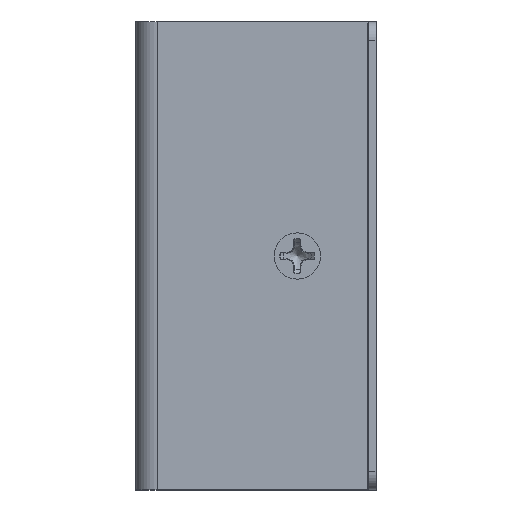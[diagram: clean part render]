
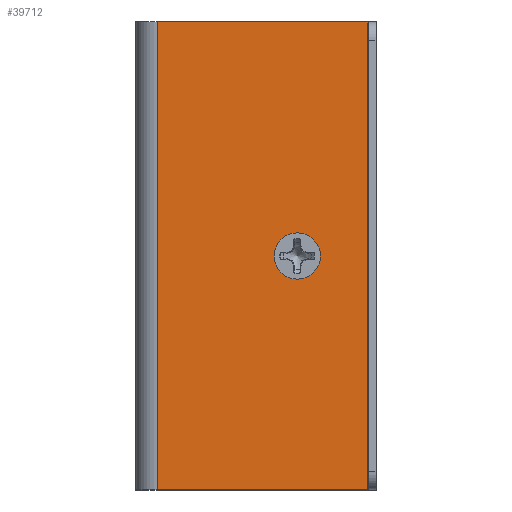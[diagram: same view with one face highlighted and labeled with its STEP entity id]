
A CAD part, left-side view. The second image highlights one B-rep face of the part: STEP entity #39712.
In plain terms, the highlighted planar face has unit normal (-1, 0, 0).
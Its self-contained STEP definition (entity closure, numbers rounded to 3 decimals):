
#308=FACE_BOUND('',#4363,.T.);
#525=PLANE('',#41809);
#2229=FACE_OUTER_BOUND('',#4362,.T.);
#4362=EDGE_LOOP('',(#27848,#27849,#27850,#27851));
#4363=EDGE_LOOP('',(#27852));
#6484=CIRCLE('',#41803,2.5);
#7733=LINE('',#60497,#12543);
#7734=LINE('',#60499,#12544);
#7735=LINE('',#60501,#12545);
#7736=LINE('',#60502,#12546);
#12543=VECTOR('',#45220,10.);
#12544=VECTOR('',#45221,10.);
#12545=VECTOR('',#45222,10.);
#12546=VECTOR('',#45223,1.852);
#17392=VERTEX_POINT('',#60464);
#17405=VERTEX_POINT('',#60495);
#17406=VERTEX_POINT('',#60496);
#17407=VERTEX_POINT('',#60498);
#17408=VERTEX_POINT('',#60500);
#21431=EDGE_CURVE('',#17392,#17392,#6484,.T.);
#21444=EDGE_CURVE('',#17405,#17406,#7733,.T.);
#21445=EDGE_CURVE('',#17407,#17406,#7734,.T.);
#21446=EDGE_CURVE('',#17407,#17408,#7735,.T.);
#21447=EDGE_CURVE('',#17405,#17408,#7736,.T.);
#27848=ORIENTED_EDGE('',*,*,#21444,.T.);
#27849=ORIENTED_EDGE('',*,*,#21445,.F.);
#27850=ORIENTED_EDGE('',*,*,#21446,.T.);
#27851=ORIENTED_EDGE('',*,*,#21447,.F.);
#27852=ORIENTED_EDGE('',*,*,#21431,.F.);
#39712=ADVANCED_FACE('',(#2229,#308),#525,.F.);
#41803=AXIS2_PLACEMENT_3D('',#60466,#45196,#45197);
#41809=AXIS2_PLACEMENT_3D('',#60494,#45218,#45219);
#45196=DIRECTION('center_axis',(-1.,0.,0.));
#45197=DIRECTION('ref_axis',(0.,0.,
1.));
#45218=DIRECTION('center_axis',(1.,0.,0.));
#45219=DIRECTION('ref_axis',(0.,1.,0.));
#45220=DIRECTION('',(0.,0.,1.));
#45221=DIRECTION('',(0.,-1.,0.));
#45222=DIRECTION('',(0.,0.,-1.));
#45223=DIRECTION('',(0.,1.,0.));
#60464=CARTESIAN_POINT('',(-74.,8.5,22.75));
#60466=CARTESIAN_POINT('Origin',(-74.,8.5,25.25));
#60494=CARTESIAN_POINT('Origin',(-74.,13.255,25.25));
#60495=CARTESIAN_POINT('',(-74.,0.9,0.));
#60496=CARTESIAN_POINT('',(-74.,0.9,50.5));
#60497=CARTESIAN_POINT('',(-74.,0.9,37.875));
#60498=CARTESIAN_POINT('',(-74.,23.6,50.5));
#60499=CARTESIAN_POINT('',(-74.,23.6,50.5));
#60500=CARTESIAN_POINT('',(-74.,23.6,0.));
#60501=CARTESIAN_POINT('',(-74.,23.6,25.25));
#60502=CARTESIAN_POINT('',(-74.,29.418,0.));
